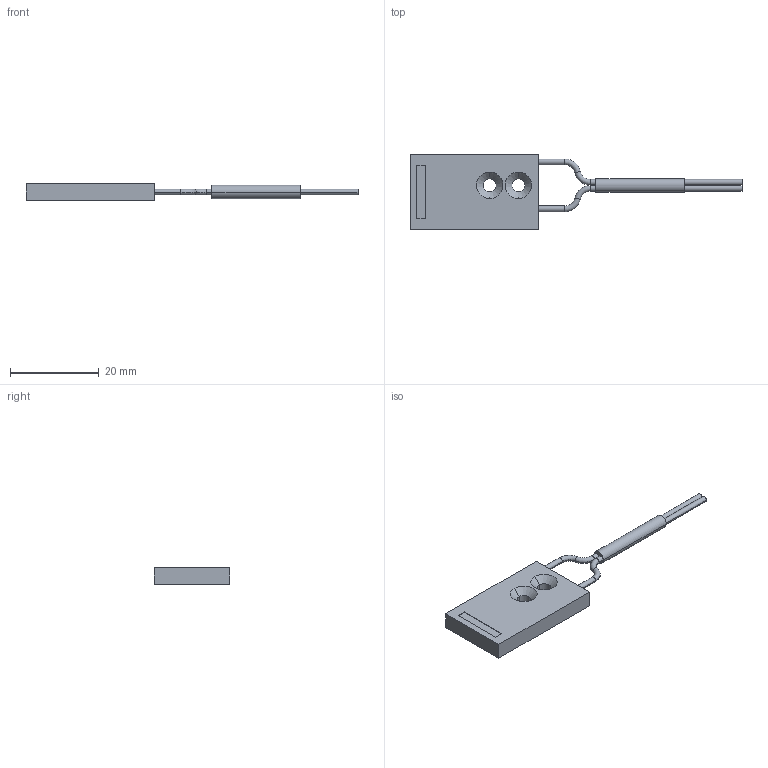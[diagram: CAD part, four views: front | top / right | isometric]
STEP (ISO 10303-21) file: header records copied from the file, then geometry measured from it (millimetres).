
FILE_DESCRIPTION (( 'STEP AP203' ), '1' );
FILE_NAME ('FD-L43.STEP', '2005-09-04T09:49:59', ( '川島良英' ), ( ' ' ), 'SwSTEP 2.0', 'SolidWorks 2004251', '' );
FILE_SCHEMA (( 'CONFIG_CONTROL_DESIGN' ));
Length unit declared in the file: millimetre
Products named in the file (1): FD-L43
Bounding box: 75 x 17 x 3.8 mm (x, y, z)
Volume: 2005.3 mm3; surface area: 1798.9 mm2
Topology: 1 solids, 1 shells, 45 faces, 98 edges, 60 vertices
Faces by surface type: cylinder 18, plane 15, torus 8, cone 4
Entity records: 1325 total; most frequent: DIRECTION 242, CARTESIAN_POINT 204, ORIENTED_EDGE 196, EDGE_CURVE 98, AXIS2_PLACEMENT_3D 98, VERTEX_POINT 60, EDGE_LOOP 56, CIRCLE 52
